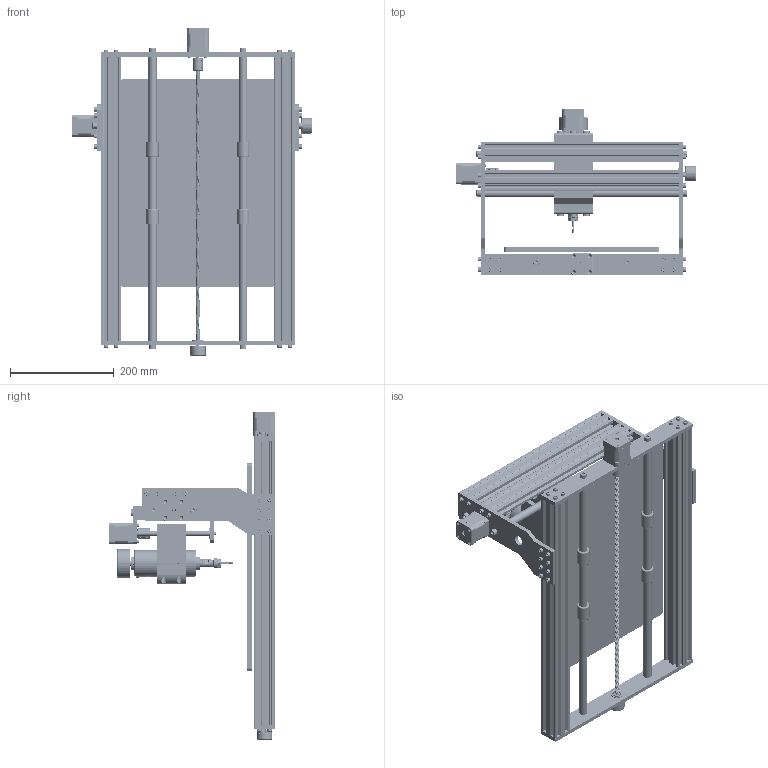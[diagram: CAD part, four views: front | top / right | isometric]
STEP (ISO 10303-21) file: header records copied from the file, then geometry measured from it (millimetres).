
FILE_DESCRIPTION(/* description */ ('STEP AP214'),/* implementation_level */ '2;1');
FILE_NAME(/* name */ 'CNC 3040 Pro Max Metal.stp',/* time_stamp */ '2024-10-17T20:44:53+02:00',/* author */ ('R5800u'),/* organization */ (''),/* preprocessor_version */ 'ST-DEVELOPER v20',/* originating_system */ 'Autodesk Inventor 2025',/* authorisation */ '');
FILE_SCHEMA (('AUTOMOTIVE_DESIGN { 1 0 10303 214 3 1 1 }'));
Products named in the file (45): CNC 3010 Max Metal; front plate; V-Slot 40x40_Demo; V-Slot 20x40_Demo; right plate; Unnamed; Body008; Cut002; SPINDLE_500W; COOLER_SPINDLE_500W; CORPO_SPINDLE_500W; EIXO_SPINDLE_500W; BASE_ER11; PORCA_ER11; barra_16mm_612mm; barra_16mm_458mm; manopola; Linear motion bearing LBP 162430 GB/T 16940; BARRA FILETTATA T12 470mm p2mm 1P; BARRA FILETTATA T12 620mm p2mm 1P copy; PIANO_LAVORO 400X300; left plate; back plate; AS 1420 - 1973 - M8 x 30; blocco_motore_1_52mm; blocco_motore_2_52mm; AS 1420 - 1973 - M5 x 35; barre_10mm; supporto_blocco_motore_52mm; Linear motion bearing LBP 101726 GB/T 16940; AS 1420 - 1973 - M5 x 25; BARRA FILETTATA T8 asse Z; blocco_asse_x; blocco_asse_x_top; Nema_17_PHB42S48-401; blocco_asse_x_bottom; %3% BS 290 - SKF 608; GIUNTO 12-5; Original - Trapezgewindemutter; dado T8 smussato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
Assembly tree (136 placements, depth 3):
  CNC 3010 Max Metal
    front plate
    V-Slot 40x40_Demo  x2
    V-Slot 20x40_Demo  x2
    right plate
    Nema_17_PHB42S48-401  x3
    Unnamed
      Body008
      Cut002
    SPINDLE_500W
      COOLER_SPINDLE_500W
      CORPO_SPINDLE_500W
      EIXO_SPINDLE_500W
      BASE_ER11
      PORCA_ER11
    manopola  x2
    barra_16mm_612mm  x2
    barra_16mm_458mm  x2
    Linear motion bearing LBP 162430 GB/T 16940  x8
    %3% BS 290 - SKF 608  x3
    BARRA FILETTATA T12 470mm p2mm 1P
    BARRA FILETTATA T12 620mm p2mm 1P copy
    PIANO_LAVORO 400X300
    GIUNTO 12-5  x3
    left plate
    back plate
    AS 1420 - 1973 - M5 x 25  x44
    AS 1420 - 1973 - M8 x 30  x8
    blocco_motore_1_52mm
    blocco_motore_2_52mm
    AS 1420 - 1973 - M5 x 35  x4
    barre_10mm  x2
    Linear motion bearing LBP 101726 GB/T 16940  x4
    supporto_blocco_motore_52mm
    BARRA FILETTATA T8 asse Z
    Original - Trapezgewindemutter  x2
    blocco_asse_x
    blocco_asse_x_top
    blocco_asse_x_bottom
    dado T8 smussato  x2
    AS 1420 - 1973 - M8 x 16  x6
    AS 1420 - 1973 - M4 x 16  x2
    AS 1420 - 1973 - M3 x 6  x4
    AS 1420 - 1973 - M3 x 14  x4
    AS 1420 - 1973 - M3 x 16  x4
Bounding box: 462.6 x 321.36 x 633.1 mm (x, y, z)
Volume: 4081279.8 mm3; surface area: 1735228.5 mm2
Topology: 258 solids, 258 shells, 4950 faces, 14042 edges, 9362 vertices
Faces by surface type: cylinder 2006, plane 1887, torus 399, cone 277, sphere 231, bspline 150
Full cylindrical faces by diameter (mm): 0.98 x2, 1 x2, 2.5 x14, 2.98 x2, 3 x26, 3.175 x2, 3.2 x12, 3.242 x18, 3.4 x4, 3.5 x4, 4 x2, 4.134 x4, 4.2 x4, 4.6 x8, 5 x56, 5.4 x2, 5.5 x348, 6 x3, 6.647 x14, 7 x23, 8 x394, 8.2 x4, 8.4 x6, 8.5 x48, 8.77 x1, 9 x12, 9.8 x1, 10 x25, 10.4 x4, 10.795 x6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
Entity records: 176446 total; most frequent: CARTESIAN_POINT 107846, ORIENTED_EDGE 15232, DIRECTION 11588, EDGE_CURVE 7616, VERTEX_POINT 5160, AXIS2_PLACEMENT_3D 4104, LINE 3380, VECTOR 3380
